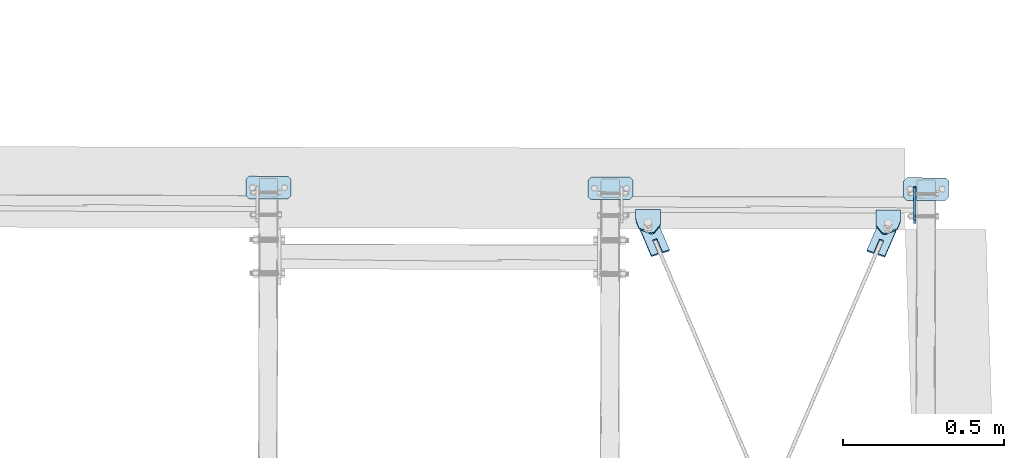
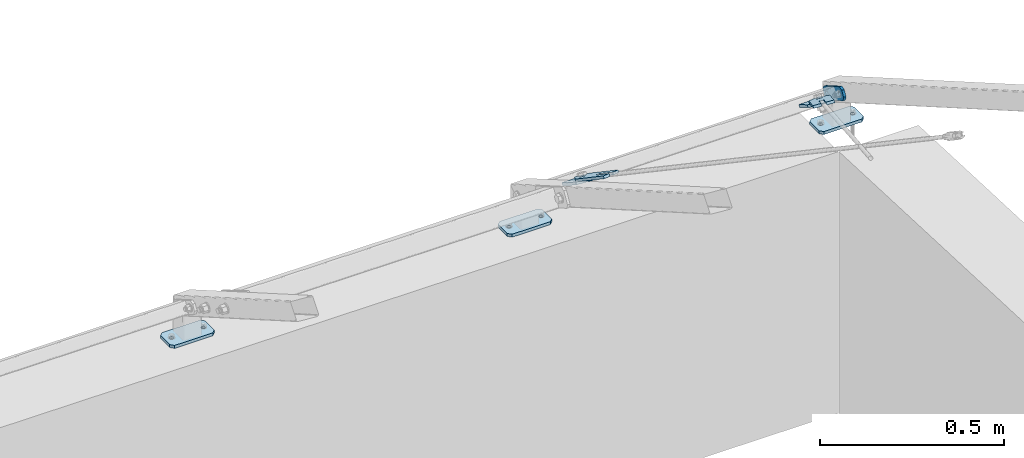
# One storey, part 45 of 288: 8 plates, 40 openings.
"""IFC2X3 building model written with IfcOpenShell, lengths in millimetres."""

from ifc_helpers import new_model, entity, si_unit, converted_unit, point, frame, frame_2d, origin, origin_with_axes, origin_2d_with_axis, place, context, project, spatial, polyline, circle_curve, line_curve, trimmed, segment, composite_curve, circle, outline, extrude, material, layer, layer_set, element, save


model = new_model("IFC2X3")

# Units and contexts
model_context = context("Model", 3, precision=1e-09, world=origin_with_axes())
ifc_project = project(units=[si_unit("LENGTHUNIT", "METRE", prefix="MILLI"), si_unit("AREAUNIT", "SQUARE_METRE"), si_unit("VOLUMEUNIT", "CUBIC_METRE"), converted_unit("PLANEANGLEUNIT", "DEGREE", entity("IfcPlaneAngleMeasure", 0.01745329), si_unit("PLANEANGLEUNIT", "RADIAN"), dimensions=[0, 0, 0, 0, 0, 0, 0])], contexts=[model_context])

# Site, building, storey
site_placement = place(None, origin_with_axes())
site = spatial("IfcSite", under=ifc_project, at=site_placement, Name="Remont ?wietlik?w nad MC w NCPP w Opolu", CompositionType="ELEMENT")
building_placement = place(site_placement, origin_with_axes())
building = spatial("IfcBuilding", under=site, at=building_placement, Name="Konstrukcja 1", CompositionType="ELEMENT")
storey_placement = place(building_placement, origin_with_axes())
storey = spatial("IfcBuildingStorey", under=building, at=storey_placement, Name="Default Storey", CompositionType="ELEMENT", Elevation=0.0)

# Plate, openings
ifc_material = material(Name="S235")
ifc_layer_1 = layer(ifc_material, 8.0)
ifc_layer_set_1 = layer_set([ifc_layer_1], Name="S235")
plate_1_placement = place(None, frame((11059.387552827, 1748.224869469, 151.007869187), z_axis=(0.999997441, -0.002262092, 1.05e-07), x_axis=(0.001959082, 0.866023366, -0.499999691)))
plate_1 = element("IfcPlate", 1, at=plate_1_placement, inside=storey, material=ifc_layer_set_1, Name="-", ObjectType="-", context=model_context, shape_type="SweptSolid", body=[
    extrude(outline(polyline([(0.0, 0.0), (120.0, 0.0), (120.0, 40.0), (0.0, 40.0), (0.0, 0.0)])), origin_with_axes(), (0.0, 0.0, 1.0), 8.0),
])
opening_1_placement = place(plate_1_placement, frame((0.0, 0.0, -0.01), z_axis=(0.0, 0.0, 1.0), x_axis=(1.0, 0.0, 0.0)))
element("IfcOpeningElement", 2, at=opening_1_placement, cuts=plate_1, ObjectType="Opening", context=model_context, shape_type="SweptSolid", body=[
    extrude(outline(composite_curve([segment(trimmed(line_curve((0.0, 40.0), (0.0, -1.0), 10.0), [point((0.0, 40.0))], [point((0.0, 30.0))], True, "CARTESIAN"), True, "CONTINUOUS"), segment(trimmed(circle_curve(frame_2d((10.0, 30.0), x_axis=(-1.0, 0.0)), 10.0), [point((0.0, 30.0))], [point((10.0, 40.0))], False, "CARTESIAN"), True, "CONTINUOUS"), segment(trimmed(line_curve((10.0, 40.0), (-1.0, 0.0), 10.0), [point((10.0, 40.0))], [point((0.0, 40.0))], True, "CARTESIAN"), True, "CONTINUOUS")], self_intersect=False)), origin(), (0.0, 0.0, 1.0), 8.02),
])
opening_2_placement = place(plate_1_placement, frame((0.0, 0.0, -0.01), z_axis=(0.0, 0.0, 1.0), x_axis=(1.0, 0.0, 0.0)))
element("IfcOpeningElement", 3, at=opening_2_placement, cuts=plate_1, ObjectType="Opening", context=model_context, shape_type="SweptSolid", body=[
    extrude(outline(composite_curve([segment(trimmed(line_curve((0.0, 0.0), (1.0, 0.0), 10.0), [point((0.0, 0.0))], [point((10.0, 0.0))], True, "CARTESIAN"), True, "CONTINUOUS"), segment(trimmed(circle_curve(frame_2d((10.0, 10.0), x_axis=(-1.0, 0.0)), 10.0), [point((10.0, 0.0))], [point((0.0, 10.0))], False, "CARTESIAN"), True, "CONTINUOUS"), segment(trimmed(line_curve((0.0, 10.0), (0.0, -1.0), 10.0), [point((0.0, 10.0))], [point((0.0, 0.0))], True, "CARTESIAN"), True, "CONTINUOUS")], self_intersect=False)), origin(), (0.0, 0.0, 1.0), 8.02),
])
opening_3_placement = place(plate_1_placement, frame((0.0, 0.0, -0.01), z_axis=(0.0, 0.0, 1.0), x_axis=(1.0, 0.0, 0.0)))
element("IfcOpeningElement", 4, at=opening_3_placement, cuts=plate_1, ObjectType="Opening", context=model_context, shape_type="SweptSolid", body=[
    extrude(outline(composite_curve([segment(trimmed(line_curve((120.0, 40.0), (-1.0, 0.0), 10.0), [point((120.0, 40.0))], [point((110.0, 40.0))], True, "CARTESIAN"), True, "CONTINUOUS"), segment(trimmed(circle_curve(frame_2d((110.0, 30.0), x_axis=(-1.0, 0.0)), 10.0), [point((110.0, 40.0))], [point((120.0, 30.0))], False, "CARTESIAN"), True, "CONTINUOUS"), segment(trimmed(line_curve((120.0, 30.0), (0.0, 1.0), 10.0), [point((120.0, 30.0))], [point((120.0, 40.0))], True, "CARTESIAN"), True, "CONTINUOUS")], self_intersect=False)), origin(), (0.0, 0.0, 1.0), 8.02),
])
opening_4_placement = place(plate_1_placement, frame((0.0, 0.0, -0.01), z_axis=(0.0, 0.0, 1.0), x_axis=(1.0, 0.0, 0.0)))
element("IfcOpeningElement", 5, at=opening_4_placement, cuts=plate_1, ObjectType="Opening", context=model_context, shape_type="SweptSolid", body=[
    extrude(outline(composite_curve([segment(trimmed(line_curve((120.0, 0.0), (0.0, 1.0), 10.0), [point((120.0, 0.0))], [point((120.0, 10.0))], True, "CARTESIAN"), True, "CONTINUOUS"), segment(trimmed(circle_curve(frame_2d((110.0, 10.0), x_axis=(-1.0, 0.0)), 10.0), [point((120.0, 10.0))], [point((110.0, 0.0))], False, "CARTESIAN"), True, "CONTINUOUS"), segment(trimmed(line_curve((110.0, 0.0), (1.0, 0.0), 10.0), [point((110.0, 0.0))], [point((120.0, 0.0))], True, "CARTESIAN"), True, "CONTINUOUS")], self_intersect=False)), origin(), (0.0, 0.0, 1.0), 8.02),
])
opening_5_placement = place(plate_1_placement, frame((27.001, 20.000292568, -0.5), z_axis=(0.0, 0.0, -1.0), x_axis=(-1.0, 0.0, 0.0)))
element("IfcOpeningElement", 6, at=opening_5_placement, cuts=plate_1, ObjectType="Opening", context=model_context, shape_type="SweptSolid", body=[
    extrude(circle(Radius=7.001, at=frame_2d((7.001, 0.0), x_axis=(1.0, 0.0))), origin(), (0.0, 0.0, -1.0), 9.0),
])
opening_6_placement = place(plate_1_placement, frame((107.001, 20.000292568, -0.5), z_axis=(0.0, 0.0, -1.0), x_axis=(-1.0, 0.0, 0.0)))
element("IfcOpeningElement", 7, at=opening_6_placement, cuts=plate_1, ObjectType="Opening", context=model_context, shape_type="SweptSolid", body=[
    extrude(circle(Radius=7.001, at=frame_2d((7.001, 0.0), x_axis=(1.0, 0.0))), origin(), (0.0, 0.0, -1.0), 9.0),
])

ifc_layer_2 = layer(ifc_material, 10.0)
ifc_layer_set_2 = layer_set([ifc_layer_2], Name="S235")
plate_2_placement = place(None, frame((11168.718977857, 1894.581575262, 10.000000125), z_axis=(0.0, 0.0, -1.0), x_axis=(-0.002261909, -0.999997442, 0.0)))
plate_2 = element("IfcPlate", 8, at=plate_2_placement, inside=storey, material=ifc_layer_set_2, Name="Baseplate", ObjectType="Baseplate", context=model_context, shape_type="SweptSolid", body=[
    extrude(outline(polyline([(0.0, 0.0), (70.0, 0.0), (70.0, 140.0), (0.0, 140.0), (0.0, 0.0)])), origin_with_axes(), (0.0, 0.0, 1.0), 10.0),
])
opening_7_placement = place(plate_2_placement, frame((0.0, 0.0, -0.01), z_axis=(0.0, 0.0, 1.0), x_axis=(1.0, 0.0, 0.0)))
element("IfcOpeningElement", 9, at=opening_7_placement, cuts=plate_2, ObjectType="Opening", context=model_context, shape_type="SweptSolid", body=[
    extrude(outline(composite_curve([segment(trimmed(line_curve((0.0, 140.0), (0.0, -1.0), 10.0), [point((0.0, 140.0))], [point((0.0, 130.0))], True, "CARTESIAN"), True, "CONTINUOUS"), segment(trimmed(circle_curve(frame_2d((10.0, 130.0), x_axis=(-1.0, 0.0)), 10.0), [point((0.0, 130.0))], [point((10.0, 140.0))], False, "CARTESIAN"), True, "CONTINUOUS"), segment(trimmed(line_curve((10.0, 140.0), (-1.0, 0.0), 10.0), [point((10.0, 140.0))], [point((0.0, 140.0))], True, "CARTESIAN"), True, "CONTINUOUS")], self_intersect=False)), origin(), (0.0, 0.0, 1.0), 10.02),
])
opening_8_placement = place(plate_2_placement, frame((0.0, 0.0, -0.01), z_axis=(0.0, 0.0, 1.0), x_axis=(1.0, 0.0, 0.0)))
element("IfcOpeningElement", 10, at=opening_8_placement, cuts=plate_2, ObjectType="Opening", context=model_context, shape_type="SweptSolid", body=[
    extrude(outline(composite_curve([segment(trimmed(line_curve((70.0, 140.0), (-1.0, 0.0), 10.0), [point((70.0, 140.0))], [point((60.0, 140.0))], True, "CARTESIAN"), True, "CONTINUOUS"), segment(trimmed(circle_curve(frame_2d((60.0, 130.0), x_axis=(-1.0, 0.0)), 10.0), [point((60.0, 140.0))], [point((70.0, 130.0))], False, "CARTESIAN"), True, "CONTINUOUS"), segment(trimmed(line_curve((70.0, 130.0), (0.0, 1.0), 10.0), [point((70.0, 130.0))], [point((70.0, 140.0))], True, "CARTESIAN"), True, "CONTINUOUS")], self_intersect=False)), origin(), (0.0, 0.0, 1.0), 10.02),
])
opening_9_placement = place(plate_2_placement, frame((0.0, 0.0, -0.01), z_axis=(0.0, 0.0, 1.0), x_axis=(1.0, 0.0, 0.0)))
element("IfcOpeningElement", 11, at=opening_9_placement, cuts=plate_2, ObjectType="Opening", context=model_context, shape_type="SweptSolid", body=[
    extrude(outline(composite_curve([segment(trimmed(line_curve((0.0, 0.0), (1.0, 0.0), 10.0), [point((0.0, 0.0))], [point((10.0, 0.0))], True, "CARTESIAN"), True, "CONTINUOUS"), segment(trimmed(circle_curve(frame_2d((10.0, 10.0), x_axis=(-1.0, 0.0)), 10.0), [point((10.0, 0.0))], [point((0.0, 10.0))], False, "CARTESIAN"), True, "CONTINUOUS"), segment(trimmed(line_curve((0.0, 10.0), (0.0, -1.0), 10.0), [point((0.0, 10.0))], [point((0.0, 0.0))], True, "CARTESIAN"), True, "CONTINUOUS")], self_intersect=False)), origin(), (0.0, 0.0, 1.0), 10.02),
])
opening_10_placement = place(plate_2_placement, frame((0.0, 0.0, -0.01), z_axis=(0.0, 0.0, 1.0), x_axis=(1.0, 0.0, 0.0)))
element("IfcOpeningElement", 12, at=opening_10_placement, cuts=plate_2, ObjectType="Opening", context=model_context, shape_type="SweptSolid", body=[
    extrude(outline(composite_curve([segment(trimmed(line_curve((70.0, 0.0), (0.0, 1.0), 10.0), [point((70.0, 0.0))], [point((70.0, 10.0))], True, "CARTESIAN"), True, "CONTINUOUS"), segment(trimmed(circle_curve(frame_2d((60.0, 10.0), x_axis=(-1.0, 0.0)), 10.0), [point((70.0, 10.0))], [point((60.0, 0.0))], False, "CARTESIAN"), True, "CONTINUOUS"), segment(trimmed(line_curve((60.0, 0.0), (1.0, 0.0), 10.0), [point((60.0, 0.0))], [point((70.0, 0.0))], True, "CARTESIAN"), True, "CONTINUOUS")], self_intersect=False)), origin(), (0.0, 0.0, 1.0), 10.02),
])
opening_11_placement = place(plate_2_placement, frame((35.0, 20.0, 10.5), z_axis=(0.0, 0.0, -1.0), x_axis=(1.0, 0.0, 0.0)))
element("IfcOpeningElement", 13, at=opening_11_placement, cuts=plate_2, ObjectType="Opening", context=model_context, shape_type="SweptSolid", body=[
    extrude(circle(Radius=6.001, at=origin_2d_with_axis()), origin(), (0.0, 0.0, 1.0), 11.0),
])
opening_12_placement = place(plate_2_placement, frame((35.0, 120.0, 10.5), z_axis=(0.0, 0.0, -1.0), x_axis=(1.0, 0.0, 0.0)))
element("IfcOpeningElement", 14, at=opening_12_placement, cuts=plate_2, ObjectType="Opening", context=model_context, shape_type="SweptSolid", body=[
    extrude(circle(Radius=6.001, at=origin_2d_with_axis()), origin(), (0.0, 0.0, 1.0), 11.0),
])

plate_3_placement = place(None, frame((10189.807168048, 1896.780495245, 10.000000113), z_axis=(0.0, 0.0, -1.0), x_axis=(-0.002261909, -0.999997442, 0.0)))
plate_3 = element("IfcPlate", 15, at=plate_3_placement, inside=storey, material=ifc_layer_set_2, Name="Baseplate", ObjectType="Baseplate", context=model_context, shape_type="SweptSolid", body=[
    extrude(outline(polyline([(0.0, 0.0), (70.0, 0.0), (70.0, 140.0), (0.0, 140.0), (0.0, 0.0)])), origin_with_axes(), (0.0, 0.0, 1.0), 10.0),
])
opening_13_placement = place(plate_3_placement, frame((0.0, 0.0, -0.01), z_axis=(0.0, 0.0, 1.0), x_axis=(1.0, 0.0, 0.0)))
element("IfcOpeningElement", 16, at=opening_13_placement, cuts=plate_3, ObjectType="Opening", context=model_context, shape_type="SweptSolid", body=[
    extrude(outline(composite_curve([segment(trimmed(line_curve((0.0, 140.0), (0.0, -1.0), 10.0), [point((0.0, 140.0))], [point((0.0, 130.0))], True, "CARTESIAN"), True, "CONTINUOUS"), segment(trimmed(circle_curve(frame_2d((10.0, 130.0), x_axis=(-1.0, 0.0)), 10.0), [point((0.0, 130.0))], [point((10.0, 140.0))], False, "CARTESIAN"), True, "CONTINUOUS"), segment(trimmed(line_curve((10.0, 140.0), (-1.0, 0.0), 10.0), [point((10.0, 140.0))], [point((0.0, 140.0))], True, "CARTESIAN"), True, "CONTINUOUS")], self_intersect=False)), origin(), (0.0, 0.0, 1.0), 10.02),
])
opening_14_placement = place(plate_3_placement, frame((0.0, 0.0, -0.01), z_axis=(0.0, 0.0, 1.0), x_axis=(1.0, 0.0, 0.0)))
element("IfcOpeningElement", 17, at=opening_14_placement, cuts=plate_3, ObjectType="Opening", context=model_context, shape_type="SweptSolid", body=[
    extrude(outline(composite_curve([segment(trimmed(line_curve((70.0, 140.0), (-1.0, 0.0), 10.0), [point((70.0, 140.0))], [point((60.0, 140.0))], True, "CARTESIAN"), True, "CONTINUOUS"), segment(trimmed(circle_curve(frame_2d((60.0, 130.0), x_axis=(-1.0, 0.0)), 10.0), [point((60.0, 140.0))], [point((70.0, 130.0))], False, "CARTESIAN"), True, "CONTINUOUS"), segment(trimmed(line_curve((70.0, 130.0), (0.0, 1.0), 10.0), [point((70.0, 130.0))], [point((70.0, 140.0))], True, "CARTESIAN"), True, "CONTINUOUS")], self_intersect=False)), origin(), (0.0, 0.0, 1.0), 10.02),
])
opening_15_placement = place(plate_3_placement, frame((0.0, 0.0, -0.01), z_axis=(0.0, 0.0, 1.0), x_axis=(1.0, 0.0, 0.0)))
element("IfcOpeningElement", 18, at=opening_15_placement, cuts=plate_3, ObjectType="Opening", context=model_context, shape_type="SweptSolid", body=[
    extrude(outline(composite_curve([segment(trimmed(line_curve((0.0, 0.0), (1.0, 0.0), 10.0), [point((0.0, 0.0))], [point((10.0, 0.0))], True, "CARTESIAN"), True, "CONTINUOUS"), segment(trimmed(circle_curve(frame_2d((10.0, 10.0), x_axis=(-1.0, 0.0)), 10.0), [point((10.0, 0.0))], [point((0.0, 10.0))], False, "CARTESIAN"), True, "CONTINUOUS"), segment(trimmed(line_curve((0.0, 10.0), (0.0, -1.0), 10.0), [point((0.0, 10.0))], [point((0.0, 0.0))], True, "CARTESIAN"), True, "CONTINUOUS")], self_intersect=False)), origin(), (0.0, 0.0, 1.0), 10.02),
])
opening_16_placement = place(plate_3_placement, frame((0.0, 0.0, -0.01), z_axis=(0.0, 0.0, 1.0), x_axis=(1.0, 0.0, 0.0)))
element("IfcOpeningElement", 19, at=opening_16_placement, cuts=plate_3, ObjectType="Opening", context=model_context, shape_type="SweptSolid", body=[
    extrude(outline(composite_curve([segment(trimmed(line_curve((70.0, 0.0), (0.0, 1.0), 10.0), [point((70.0, 0.0))], [point((70.0, 10.0))], True, "CARTESIAN"), True, "CONTINUOUS"), segment(trimmed(circle_curve(frame_2d((60.0, 10.0), x_axis=(-1.0, 0.0)), 10.0), [point((70.0, 10.0))], [point((60.0, 0.0))], False, "CARTESIAN"), True, "CONTINUOUS"), segment(trimmed(line_curve((60.0, 0.0), (1.0, 0.0), 10.0), [point((60.0, 0.0))], [point((70.0, 0.0))], True, "CARTESIAN"), True, "CONTINUOUS")], self_intersect=False)), origin(), (0.0, 0.0, 1.0), 10.02),
])
opening_17_placement = place(plate_3_placement, frame((35.0, 120.0, 10.5), z_axis=(0.0, 0.0, -1.0), x_axis=(1.0, 0.0, 0.0)))
element("IfcOpeningElement", 20, at=opening_17_placement, cuts=plate_3, ObjectType="Opening", context=model_context, shape_type="SweptSolid", body=[
    extrude(circle(Radius=6.001, at=origin_2d_with_axis()), origin(), (0.0, 0.0, 1.0), 11.0),
])
opening_18_placement = place(plate_3_placement, frame((35.0, 20.0, 10.5), z_axis=(0.0, 0.0, -1.0), x_axis=(1.0, 0.0, 0.0)))
element("IfcOpeningElement", 21, at=opening_18_placement, cuts=plate_3, ObjectType="Opening", context=model_context, shape_type="SweptSolid", body=[
    extrude(circle(Radius=6.001, at=origin_2d_with_axis()), origin(), (0.0, 0.0, 1.0), 11.0),
])

plate_4_placement = place(None, frame((9129.809879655, 1899.17811903, 10.000000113), z_axis=(0.0, 0.0, -1.0), x_axis=(-0.002261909, -0.999997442, 0.0)))
plate_4 = element("IfcPlate", 22, at=plate_4_placement, inside=storey, material=ifc_layer_set_2, Name="Baseplate", ObjectType="Baseplate", context=model_context, shape_type="SweptSolid", body=[
    extrude(outline(polyline([(0.0, 0.0), (70.0, 0.0), (70.0, 140.0), (0.0, 140.0), (0.0, 0.0)])), origin_with_axes(), (0.0, 0.0, 1.0), 10.0),
])
opening_19_placement = place(plate_4_placement, frame((0.0, 0.0, -0.01), z_axis=(0.0, 0.0, 1.0), x_axis=(1.0, 0.0, 0.0)))
element("IfcOpeningElement", 23, at=opening_19_placement, cuts=plate_4, ObjectType="Opening", context=model_context, shape_type="SweptSolid", body=[
    extrude(outline(composite_curve([segment(trimmed(line_curve((0.0, 140.0), (0.0, -1.0), 10.0), [point((0.0, 140.0))], [point((0.0, 130.0))], True, "CARTESIAN"), True, "CONTINUOUS"), segment(trimmed(circle_curve(frame_2d((10.0, 130.0), x_axis=(-1.0, 0.0)), 10.0), [point((0.0, 130.0))], [point((10.0, 140.0))], False, "CARTESIAN"), True, "CONTINUOUS"), segment(trimmed(line_curve((10.0, 140.0), (-1.0, 0.0), 10.0), [point((10.0, 140.0))], [point((0.0, 140.0))], True, "CARTESIAN"), True, "CONTINUOUS")], self_intersect=False)), origin(), (0.0, 0.0, 1.0), 10.02),
])
opening_20_placement = place(plate_4_placement, frame((0.0, 0.0, -0.01), z_axis=(0.0, 0.0, 1.0), x_axis=(1.0, 0.0, 0.0)))
element("IfcOpeningElement", 24, at=opening_20_placement, cuts=plate_4, ObjectType="Opening", context=model_context, shape_type="SweptSolid", body=[
    extrude(outline(composite_curve([segment(trimmed(line_curve((70.0, 140.0), (-1.0, 0.0), 10.0), [point((70.0, 140.0))], [point((60.0, 140.0))], True, "CARTESIAN"), True, "CONTINUOUS"), segment(trimmed(circle_curve(frame_2d((60.0, 130.0), x_axis=(-1.0, 0.0)), 10.0), [point((60.0, 140.0))], [point((70.0, 130.0))], False, "CARTESIAN"), True, "CONTINUOUS"), segment(trimmed(line_curve((70.0, 130.0), (0.0, 1.0), 10.0), [point((70.0, 130.0))], [point((70.0, 140.0))], True, "CARTESIAN"), True, "CONTINUOUS")], self_intersect=False)), origin(), (0.0, 0.0, 1.0), 10.02),
])
opening_21_placement = place(plate_4_placement, frame((0.0, 0.0, -0.01), z_axis=(0.0, 0.0, 1.0), x_axis=(1.0, 0.0, 0.0)))
element("IfcOpeningElement", 25, at=opening_21_placement, cuts=plate_4, ObjectType="Opening", context=model_context, shape_type="SweptSolid", body=[
    extrude(outline(composite_curve([segment(trimmed(line_curve((0.0, 0.0), (1.0, 0.0), 10.0), [point((0.0, 0.0))], [point((10.0, 0.0))], True, "CARTESIAN"), True, "CONTINUOUS"), segment(trimmed(circle_curve(frame_2d((10.0, 10.0), x_axis=(-1.0, 0.0)), 10.0), [point((10.0, 0.0))], [point((0.0, 10.0))], False, "CARTESIAN"), True, "CONTINUOUS"), segment(trimmed(line_curve((0.0, 10.0), (0.0, -1.0), 10.0), [point((0.0, 10.0))], [point((0.0, 0.0))], True, "CARTESIAN"), True, "CONTINUOUS")], self_intersect=False)), origin(), (0.0, 0.0, 1.0), 10.02),
])
opening_22_placement = place(plate_4_placement, frame((0.0, 0.0, -0.01), z_axis=(0.0, 0.0, 1.0), x_axis=(1.0, 0.0, 0.0)))
element("IfcOpeningElement", 26, at=opening_22_placement, cuts=plate_4, ObjectType="Opening", context=model_context, shape_type="SweptSolid", body=[
    extrude(outline(composite_curve([segment(trimmed(line_curve((70.0, 0.0), (0.0, 1.0), 10.0), [point((70.0, 0.0))], [point((70.0, 10.0))], True, "CARTESIAN"), True, "CONTINUOUS"), segment(trimmed(circle_curve(frame_2d((60.0, 10.0), x_axis=(-1.0, 0.0)), 10.0), [point((70.0, 10.0))], [point((60.0, 0.0))], False, "CARTESIAN"), True, "CONTINUOUS"), segment(trimmed(line_curve((60.0, 0.0), (1.0, 0.0), 10.0), [point((60.0, 0.0))], [point((70.0, 0.0))], True, "CARTESIAN"), True, "CONTINUOUS")], self_intersect=False)), origin(), (0.0, 0.0, 1.0), 10.02),
])
opening_23_placement = place(plate_4_placement, frame((35.0, 20.0, 10.5), z_axis=(0.0, 0.0, -1.0), x_axis=(1.0, 0.0, 0.0)))
element("IfcOpeningElement", 27, at=opening_23_placement, cuts=plate_4, ObjectType="Opening", context=model_context, shape_type="SweptSolid", body=[
    extrude(circle(Radius=6.001, at=origin_2d_with_axis()), origin(), (0.0, 0.0, 1.0), 11.0),
])
opening_24_placement = place(plate_4_placement, frame((35.0, 120.0, 10.5), z_axis=(0.0, 0.0, -1.0), x_axis=(1.0, 0.0, 0.0)))
element("IfcOpeningElement", 28, at=opening_24_placement, cuts=plate_4, ObjectType="Opening", context=model_context, shape_type="SweptSolid", body=[
    extrude(circle(Radius=6.001, at=origin_2d_with_axis()), origin(), (0.0, 0.0, 1.0), 11.0),
])

plate_5_placement = place(None, frame((10970.874557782, 1651.936056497, 243.661079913), z_axis=(-0.001127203, -0.499998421, -0.866025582), x_axis=(-0.937108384, 0.302803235, -0.173603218)))
plate_5 = element("IfcPlate", 29, at=plate_5_placement, inside=storey, material=ifc_layer_set_1, Name="Tab_Plate#2", ObjectType="Tab_Plate#2", context=model_context, shape_type="SweptSolid", body=[
    extrude(outline(polyline([(0.0, 0.0), (60.0, 0.0), (60.0, 140.0), (0.0, 140.0), (0.0, 0.0)])), origin_with_axes(), (0.0, 0.0, 1.0), 8.0),
])
opening_25_placement = place(plate_5_placement, frame((0.0, 0.0, -0.01), z_axis=(0.0, 0.0, 1.0), x_axis=(1.0, 0.0, 0.0)))
element("IfcOpeningElement", 30, at=opening_25_placement, cuts=plate_5, ObjectType="Opening", context=model_context, shape_type="SweptSolid", body=[
    extrude(outline(composite_curve([segment(trimmed(line_curve((60.0, 140.0), (-1.0, 0.0), 30.0), [point((60.0, 140.0))], [point((30.0, 140.0))], True, "CARTESIAN"), True, "CONTINUOUS"), segment(trimmed(circle_curve(frame_2d((30.0, 110.0), x_axis=(-1.0, 0.0)), 30.0), [point((30.0, 140.0))], [point((60.0, 110.0))], False, "CARTESIAN"), True, "CONTINUOUS"), segment(trimmed(line_curve((60.0, 110.0), (0.0, 1.0), 30.0), [point((60.0, 110.0))], [point((60.0, 140.0))], True, "CARTESIAN"), True, "CONTINUOUS")], self_intersect=False)), origin(), (0.0, 0.0, 1.0), 8.02),
])
opening_26_placement = place(plate_5_placement, frame((0.0, 0.0, -0.01), z_axis=(0.0, 0.0, 1.0), x_axis=(1.0, 0.0, 0.0)))
element("IfcOpeningElement", 31, at=opening_26_placement, cuts=plate_5, ObjectType="Opening", context=model_context, shape_type="SweptSolid", body=[
    extrude(outline(composite_curve([segment(trimmed(line_curve((0.0, 140.0), (0.0, -1.0), 30.0), [point((0.0, 140.0))], [point((0.0, 110.0))], True, "CARTESIAN"), True, "CONTINUOUS"), segment(trimmed(circle_curve(frame_2d((30.0, 110.0), x_axis=(-1.0, 0.0)), 30.0), [point((0.0, 110.0))], [point((30.0, 140.0))], False, "CARTESIAN"), True, "CONTINUOUS"), segment(trimmed(line_curve((30.0, 140.0), (-1.0, 0.0), 30.0), [point((30.0, 140.0))], [point((0.0, 140.0))], True, "CARTESIAN"), True, "CONTINUOUS")], self_intersect=False)), origin(), (0.0, 0.0, 1.0), 8.02),
])
opening_27_placement = place(plate_5_placement, frame((0.0, 0.0, 8.1), z_axis=(0.0, 0.0, -1.0), x_axis=(0.937788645, -0.34720665, 0.0)))
element("IfcOpeningElement", 32, at=opening_27_placement, cuts=plate_5, ObjectType="Opening", context=model_context, shape_type="SweptSolid", body=[
    extrude(outline(polyline([(3.8603147, -55.813564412), (16.991231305, -60.675151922), (34.699464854, -12.846055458), (21.568548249, -7.984467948), (3.8603147, -55.813564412)])), origin(), (0.0, 0.0, 1.0), 8.2),
])
opening_28_placement = place(plate_5_placement, frame((30.0, 110.0, 8.5), z_axis=(0.0, 0.0, -1.0), x_axis=(0.0, -1.0, 0.0)))
element("IfcOpeningElement", 33, at=opening_28_placement, cuts=plate_5, ObjectType="Opening", context=model_context, shape_type="SweptSolid", body=[
    extrude(circle(Radius=9.001, at=origin_2d_with_axis()), origin(), (0.0, 0.0, 1.0), 9.0),
])

plate_6_placement = place(None, frame((10942.552954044, 1727.013407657, 181.876954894), z_axis=(0.001127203, 0.499998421, 0.866025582), x_axis=(0.937108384, -0.302803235, 0.173603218)))
plate_6 = element("IfcPlate", 34, at=plate_6_placement, inside=storey, material=ifc_layer_set_1, Name="Gusset#2", ObjectType="Gusset#2", context=model_context, shape_type="SweptSolid", body=[
    extrude(outline(polyline([(0.0, 0.0), (60.0, 0.0), (60.0, 60.0), (46.61551642, 96.151598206), (-25.687679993, 69.382631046), (0.0, 0.0)])), origin_with_axes(), (0.0, 0.0, 1.0), 8.0),
])
opening_29_placement = place(plate_6_placement, frame((30.0, 30.0, -0.5), z_axis=(0.0, 0.0, 1.0), x_axis=(0.0, -1.0, 0.0)))
element("IfcOpeningElement", 35, at=opening_29_placement, cuts=plate_6, ObjectType="Opening", context=model_context, shape_type="SweptSolid", body=[
    extrude(circle(Radius=9.001, at=origin_2d_with_axis()), origin(), (0.0, 0.0, 1.0), 9.0),
])
opening_30_placement = place(plate_6_placement, frame((0.0, 0.0, -0.01), z_axis=(0.0, 0.0, 1.0), x_axis=(1.0, 0.0, 0.0)))
element("IfcOpeningElement", 36, at=opening_30_placement, cuts=plate_6, ObjectType="Opening", context=model_context, shape_type="SweptSolid", body=[
    extrude(outline(composite_curve([segment(trimmed(line_curve((60.0, 0.0), (0.0, 1.0), 30.0), [point((60.0, 0.0))], [point((60.0, 30.0))], True, "CARTESIAN"), True, "CONTINUOUS"), segment(trimmed(circle_curve(frame_2d((30.0, 30.0), x_axis=(-1.0, 0.0)), 30.0), [point((60.0, 30.0))], [point((30.0, 0.0))], False, "CARTESIAN"), True, "CONTINUOUS"), segment(trimmed(line_curve((30.0, 0.0), (1.0, 0.0), 30.0), [point((30.0, 0.0))], [point((60.0, 0.0))], True, "CARTESIAN"), True, "CONTINUOUS")], self_intersect=False)), origin(), (0.0, 0.0, 1.0), 8.02),
])
opening_31_placement = place(plate_6_placement, frame((0.0, 0.0, -0.01), z_axis=(0.0, 0.0, 1.0), x_axis=(1.0, 0.0, 0.0)))
element("IfcOpeningElement", 37, at=opening_31_placement, cuts=plate_6, ObjectType="Opening", context=model_context, shape_type="SweptSolid", body=[
    extrude(outline(composite_curve([segment(trimmed(line_curve((0.0, 0.0), (1.0, 0.0), 20.883106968), [point((0.0, 0.0))], [point((20.883106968, 0.0))], True, "CARTESIAN"), True, "CONTINUOUS"), segment(trimmed(circle_curve(frame_2d((20.883106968, 30.0), x_axis=(-1.0, 0.0)), 30.0), [point((20.883106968, 0.0))], [point((-7.250622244, 19.583989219))], False, "CARTESIAN"), True, "CONTINUOUS"), segment(trimmed(line_curve((-7.250622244, 19.583989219), (0.347200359, -0.937790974), 20.883106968), [point((-7.250622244, 19.583989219))], [point((0.0, 0.0))], True, "CARTESIAN"), True, "CONTINUOUS")], self_intersect=False)), origin(), (0.0, 0.0, 1.0), 8.02),
])
opening_32_placement = place(plate_6_placement, frame((0.0, 0.0, -0.01), z_axis=(0.0, 0.0, 1.0), x_axis=(1.0, 0.0, 0.0)))
element("IfcOpeningElement", 38, at=opening_32_placement, cuts=plate_6, ObjectType="Opening", context=model_context, shape_type="SweptSolid", body=[
    extrude(outline(composite_curve([segment(trimmed(line_curve((60.0, 60.0), (-0.347200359, 0.937790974), 5.375198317), [point((60.0, 60.0))], [point((58.133729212, 65.040812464))], True, "CARTESIAN"), True, "CONTINUOUS"), segment(trimmed(circle_curve(frame_2d((30.0, 54.624801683), x_axis=(-1.0, 0.0)), 30.0), [point((58.133729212, 65.040812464))], [point((60.0, 54.624801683))], False, "CARTESIAN"), True, "CONTINUOUS"), segment(trimmed(line_curve((60.0, 54.624801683), (0.0, 1.0), 5.375198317), [point((60.0, 54.624801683))], [point((60.0, 60.0))], True, "CARTESIAN"), True, "CONTINUOUS")], self_intersect=False)), origin(), (0.0, 0.0, 1.0), 8.02),
])

plate_7_placement = place(None, frame((10246.541985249, 1649.57320134, 236.730446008), z_axis=(0.001127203, 0.499998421, 0.866025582), x_axis=(0.938468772, 0.298564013, -0.173596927)))
plate_7 = element("IfcPlate", 39, at=plate_7_placement, inside=storey, material=ifc_layer_set_1, Name="Tab_Plate#2", ObjectType="Tab_Plate#2", context=model_context, shape_type="SweptSolid", body=[
    extrude(outline(polyline([(0.0, 0.0), (60.0, 0.0), (60.0, 140.0), (0.0, 140.0), (0.0, 0.0)])), origin_with_axes(), (0.0, 0.0, 1.0), 8.0),
])
opening_33_placement = place(plate_7_placement, frame((0.0, 0.0, -0.01), z_axis=(0.0, 0.0, 1.0), x_axis=(1.0, 0.0, 0.0)))
element("IfcOpeningElement", 40, at=opening_33_placement, cuts=plate_7, ObjectType="Opening", context=model_context, shape_type="SweptSolid", body=[
    extrude(outline(composite_curve([segment(trimmed(line_curve((60.0, 140.0), (-1.0, 0.0), 30.0), [point((60.0, 140.0))], [point((30.0, 140.0))], True, "CARTESIAN"), True, "CONTINUOUS"), segment(trimmed(circle_curve(frame_2d((30.0, 110.0), x_axis=(-1.0, 0.0)), 30.0), [point((30.0, 140.0))], [point((60.0, 110.0))], False, "CARTESIAN"), True, "CONTINUOUS"), segment(trimmed(line_curve((60.0, 110.0), (0.0, 1.0), 30.0), [point((60.0, 110.0))], [point((60.0, 140.0))], True, "CARTESIAN"), True, "CONTINUOUS")], self_intersect=False)), origin(), (0.0, 0.0, 1.0), 8.02),
])
opening_34_placement = place(plate_7_placement, frame((0.0, 0.0, -0.01), z_axis=(0.0, 0.0, 1.0), x_axis=(1.0, 0.0, 0.0)))
element("IfcOpeningElement", 41, at=opening_34_placement, cuts=plate_7, ObjectType="Opening", context=model_context, shape_type="SweptSolid", body=[
    extrude(outline(composite_curve([segment(trimmed(line_curve((0.0, 140.0), (0.0, -1.0), 30.0), [point((0.0, 140.0))], [point((0.0, 110.0))], True, "CARTESIAN"), True, "CONTINUOUS"), segment(trimmed(circle_curve(frame_2d((30.0, 110.0), x_axis=(-1.0, 0.0)), 30.0), [point((0.0, 110.0))], [point((30.0, 140.0))], False, "CARTESIAN"), True, "CONTINUOUS"), segment(trimmed(line_curve((30.0, 140.0), (-1.0, 0.0), 30.0), [point((30.0, 140.0))], [point((0.0, 140.0))], True, "CARTESIAN"), True, "CONTINUOUS")], self_intersect=False)), origin(), (0.0, 0.0, 1.0), 8.02),
])
opening_35_placement = place(plate_7_placement, frame((0.0, 0.0, 8.1), z_axis=(0.0, 0.0, -1.0), x_axis=(0.937793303, -0.347194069, 0.0)))
element("IfcOpeningElement", 42, at=opening_35_placement, cuts=plate_7, ObjectType="Opening", context=model_context, shape_type="SweptSolid", body=[
    extrude(outline(polyline([(3.861063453, -55.81351262), (16.992045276, -60.674923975), (34.699637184, -12.845589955), (21.568655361, -7.9841786), (3.861063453, -55.81351262)])), origin(), (0.0, 0.0, 1.0), 8.2),
])
opening_36_placement = place(plate_7_placement, frame((30.0, 119.001, -0.5), z_axis=(0.0, 0.0, -1.0), x_axis=(-1.0, 0.0, 0.0)))
element("IfcOpeningElement", 43, at=opening_36_placement, cuts=plate_7, ObjectType="Opening", context=model_context, shape_type="SweptSolid", body=[
    extrude(circle(Radius=9.001, at=frame_2d((0.0, -9.001), x_axis=(1.0, 0.0))), origin(), (0.0, 0.0, -1.0), 9.0),
])

plate_8_placement = place(None, frame((10275.221130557, 1732.521733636, 188.802921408), z_axis=(-0.001127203, -0.499998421, -0.866025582), x_axis=(-0.938468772, -0.298564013, 0.173596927)))
plate_8 = element("IfcPlate", 44, at=plate_8_placement, inside=storey, material=ifc_layer_set_1, Name="Gusset#2", ObjectType="Gusset#2", context=model_context, shape_type="SweptSolid", body=[
    extrude(outline(polyline([(0.0, 0.0), (60.0, 0.0), (60.0, 60.0), (46.61551642, 96.151598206), (-25.687679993, 69.382631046), (0.0, 0.0)])), origin_with_axes(), (0.0, 0.0, 1.0), 8.0),
])
opening_37_placement = place(plate_8_placement, frame((30.0, 39.001, 8.5), z_axis=(0.0, 0.0, 1.0), x_axis=(1.0, 0.0, 0.0)))
element("IfcOpeningElement", 45, at=opening_37_placement, cuts=plate_8, ObjectType="Opening", context=model_context, shape_type="SweptSolid", body=[
    extrude(circle(Radius=9.001, at=frame_2d((0.0, -9.001), x_axis=(1.0, 0.0))), origin(), (0.0, 0.0, -1.0), 9.0),
])
opening_38_placement = place(plate_8_placement, frame((0.0, 0.0, -0.01), z_axis=(0.0, 0.0, 1.0), x_axis=(1.0, 0.0, 0.0)))
element("IfcOpeningElement", 46, at=opening_38_placement, cuts=plate_8, ObjectType="Opening", context=model_context, shape_type="SweptSolid", body=[
    extrude(outline(composite_curve([segment(trimmed(line_curve((60.0, 0.0), (0.0, 1.0), 30.0), [point((60.0, 0.0))], [point((60.0, 30.0))], True, "CARTESIAN"), True, "CONTINUOUS"), segment(trimmed(circle_curve(frame_2d((30.0, 30.0), x_axis=(-1.0, 0.0)), 30.0), [point((60.0, 30.0))], [point((30.0, 0.0))], False, "CARTESIAN"), True, "CONTINUOUS"), segment(trimmed(line_curve((30.0, 0.0), (1.0, 0.0), 30.0), [point((30.0, 0.0))], [point((60.0, 0.0))], True, "CARTESIAN"), True, "CONTINUOUS")], self_intersect=False)), origin(), (0.0, 0.0, 1.0), 8.02),
])
opening_39_placement = place(plate_8_placement, frame((0.0, 0.0, -0.01), z_axis=(0.0, 0.0, 1.0), x_axis=(1.0, 0.0, 0.0)))
element("IfcOpeningElement", 47, at=opening_39_placement, cuts=plate_8, ObjectType="Opening", context=model_context, shape_type="SweptSolid", body=[
    extrude(outline(composite_curve([segment(trimmed(line_curve((60.0, 60.0), (-0.347200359, 0.937790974), 5.375198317), [point((60.0, 60.0))], [point((58.133729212, 65.040812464))], True, "CARTESIAN"), True, "CONTINUOUS"), segment(trimmed(circle_curve(frame_2d((30.0, 54.624801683), x_axis=(-1.0, 0.0)), 30.0), [point((58.133729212, 65.040812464))], [point((60.0, 54.624801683))], False, "CARTESIAN"), True, "CONTINUOUS"), segment(trimmed(line_curve((60.0, 54.624801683), (0.0, 1.0), 5.375198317), [point((60.0, 54.624801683))], [point((60.0, 60.0))], True, "CARTESIAN"), True, "CONTINUOUS")], self_intersect=False)), origin(), (0.0, 0.0, 1.0), 8.02),
])
opening_40_placement = place(plate_8_placement, frame((0.0, 0.0, -0.01), z_axis=(0.0, 0.0, 1.0), x_axis=(1.0, 0.0, 0.0)))
element("IfcOpeningElement", 48, at=opening_40_placement, cuts=plate_8, ObjectType="Opening", context=model_context, shape_type="SweptSolid", body=[
    extrude(outline(composite_curve([segment(trimmed(line_curve((0.0, 0.0), (1.0, 0.0), 20.883106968), [point((0.0, 0.0))], [point((20.883106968, 0.0))], True, "CARTESIAN"), True, "CONTINUOUS"), segment(trimmed(circle_curve(frame_2d((20.883106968, 30.0), x_axis=(-1.0, 0.0)), 30.0), [point((20.883106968, 0.0))], [point((-7.250622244, 19.583989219))], False, "CARTESIAN"), True, "CONTINUOUS"), segment(trimmed(line_curve((-7.250622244, 19.583989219), (0.347200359, -0.937790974), 20.883106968), [point((-7.250622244, 19.583989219))], [point((0.0, 0.0))], True, "CARTESIAN"), True, "CONTINUOUS")], self_intersect=False)), origin(), (0.0, 0.0, 1.0), 8.02),
])

save(model, "model.ifc")
